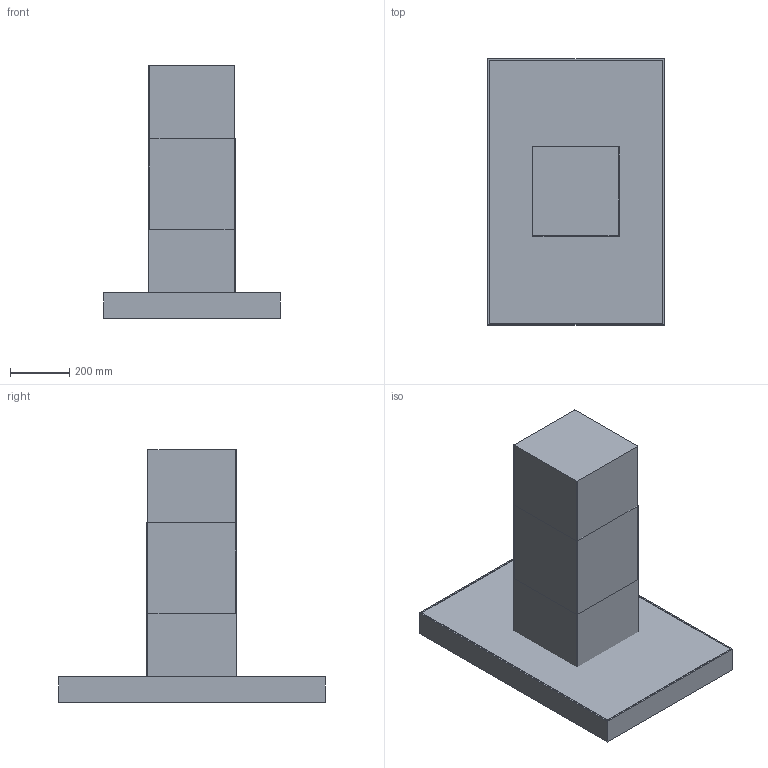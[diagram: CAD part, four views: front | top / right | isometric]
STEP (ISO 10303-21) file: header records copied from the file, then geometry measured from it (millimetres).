
FILE_DESCRIPTION(/* description */ (''),/* implementation_level */ '2;1');
FILE_NAME(/* name */ 'DA6690D_OBSW',/* time_stamp */ '2013-03-10T15:22:57+01:00',/* author */ (''),/* organization */ (''),/* preprocessor_version */ 'ST-DEVELOPER v10',/* originating_system */ '',/* authorisation */ '');
FILE_SCHEMA (('AUTOMOTIVE_DESIGN_CC2'));
Length unit declared in the file: millimetre
Products named in the file (1): 1
Bounding box: 596 x 896 x 850 mm (x, y, z)
Volume: 123149380.9 mm3; surface area: 4374529.5 mm2
Topology: 9 solids, 9 shells, 88 faces, 192 edges, 128 vertices
Faces by surface type: bspline 88
Entity records: 2395 total; most frequent: CARTESIAN_POINT 1085, ORIENTED_EDGE 384, EDGE_CURVE 192, B_SPLINE_CURVE_WITH_KNOTS 144, VERTEX_POINT 128, EDGE_LOOP 96, ADVANCED_FACE 88, FACE_OUTER_BOUND 88
